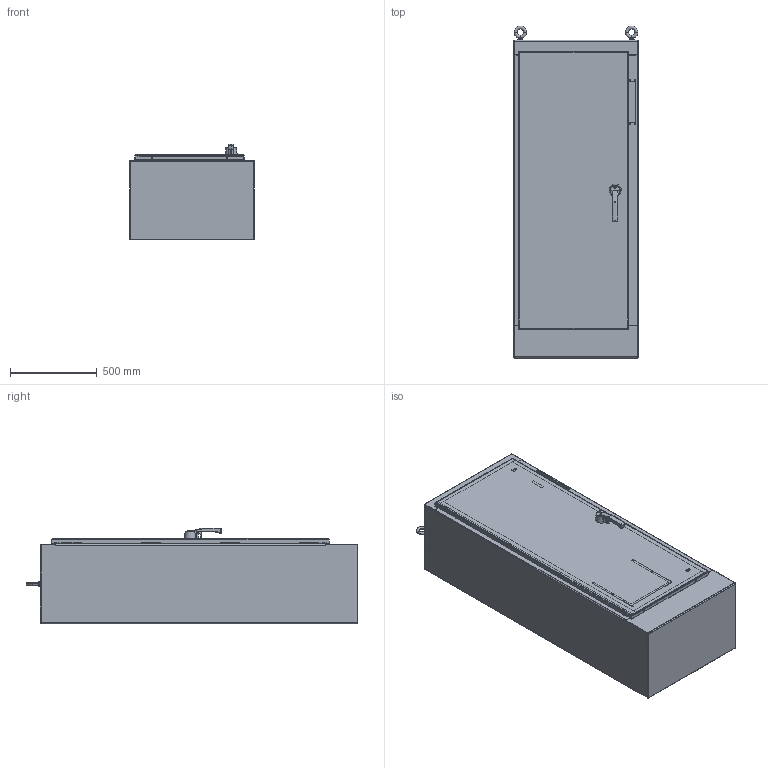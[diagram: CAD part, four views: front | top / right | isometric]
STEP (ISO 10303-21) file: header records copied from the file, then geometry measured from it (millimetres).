
FILE_DESCRIPTION (( 'STEP AP203' ), '1' );
FILE_NAME ('a72xm2818ftc.STEP', '2012-08-29T17:22:37', ( 'User' ), ( 'Pentair Inc' ), 'SwSTEP 2.0', 'SolidWorks 2010', '' );
FILE_SCHEMA (( 'CONFIG_CONTROL_DESIGN' ));
Products named in the file (65): a72xm2818ftc; 89086031; 89086048; 89086095; 89086111; 89086065; 89086080; 22112001_AFTER WELD; 27104001; 89086127; 89086137; 89086147; 89086157; 11258882_11258882; 89085500; 26108002; 87932883; 99415273_Hex Nut; 89086198; 89086188; 89086183; 99404177_Config-Drawing; 24110001; 26173001; 99401225_Config-Drawing; 89085464_60127101; 23418001; 22318001; 89086633; 87956539; 87922656; 26274015_26274015; 26273015_26273015; 27115001; 26118002_26118002; 27439101_27439101; 99401300_99401300; 35130001_SI-HHMS 0.25-28x0.375x0.375-N; 89087372_35124003; 87544899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
Assembly tree (104 placements, depth 5):
  a72xm2818ftc
    87790199  x4
    89086198
      22101014
      26118002_26118002  x2
      89086188
        24110001  x2
        26173001
        99401225_Config-Drawing  x2
        89085464_60127101  x4
        89086183
        99404177_Config-Drawing
      35131001_35131001
      87922656  x2
      87544899
      22318001  x2
      89087372_35124003
      87956539  x2
      35130001_SI-HHMS 0.25-28x0.375x0.375-N  x2
      26274015_26274015  x2
        22318002
        27115001
        30101003
        26273015_26273015
      99401300_99401300  x2
      23418001
      89086633
      27439101_27439101
    89085489  x4
      60127199_60127199
      60127135_Installed postion
      87790201_87790201
      89085847
    89086031
      89086127
        89086137
        99404177_Config-Drawing
      87932883  x2
      99415273_Hex Nut  x2
      89086147
        11258882_11258882
        89086157
      89085500  x2
      89086048
        22112001_AFTER WELD  x6
        89086095
          89086111
        89086065
          99404177_Config-Drawing  x2
          89086080
        27104001  x2
      26108002  x2
    11358034
      11158979
        99401529
        99401527  x2
        11158978
      99401525_.25"  x3
      30101003
      22101001  x3
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Bounding box: 717.55 x 1914.78 x 551.87 mm (x, y, z)
Volume: 20452474.6 mm3; surface area: 13303035.7 mm2
Topology: 110 solids, 113 shells, 5809 faces, 14181 edges, 8663 vertices
Faces by surface type: plane 2652, cylinder 1625, bspline 653, cone 438, torus 374, sphere 67
Entity records: 135922 total; most frequent: CARTESIAN_POINT 53278, ORIENTED_EDGE 16150, DIRECTION 14291, EDGE_CURVE 8076, VERTEX_POINT 5058, AXIS2_PLACEMENT_3D 4823, LINE 4645, VECTOR 4645
